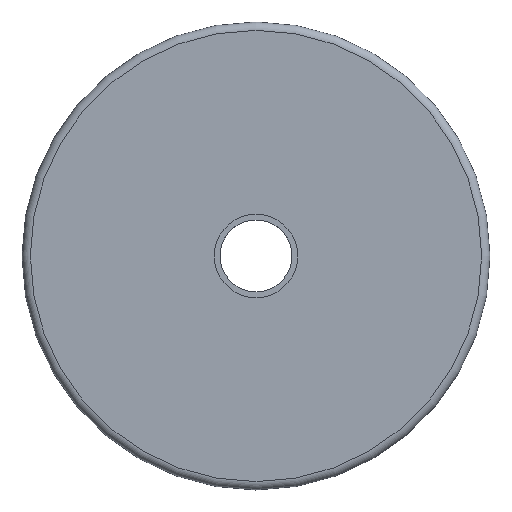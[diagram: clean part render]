
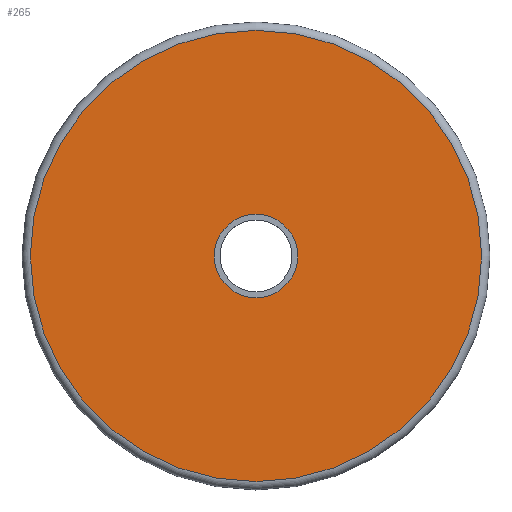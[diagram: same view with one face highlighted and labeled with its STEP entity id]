
A CAD part, top view. The second image highlights one B-rep face of the part: STEP entity #265.
In plain terms, the highlighted planar face has unit normal (0, 0, 1).
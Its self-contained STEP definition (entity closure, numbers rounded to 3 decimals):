
#84 = TOROIDAL_SURFACE('',#85,13.5,0.5);
#85 = AXIS2_PLACEMENT_3D('',#86,#87,#88);
#86 = CARTESIAN_POINT('',(0.,0.,0.7));
#87 = DIRECTION('',(0.,0.,1.));
#88 = DIRECTION('',(1.,0.,-0.));
#181 = VERTEX_POINT('',#182);
#182 = CARTESIAN_POINT('',(13.5,0.,1.2));
#204 = EDGE_CURVE('',#181,#181,#205,.T.);
#205 = SURFACE_CURVE('',#206,(#211,#218),.PCURVE_S1.);
#206 = CIRCLE('',#207,13.5);
#207 = AXIS2_PLACEMENT_3D('',#208,#209,#210);
#208 = CARTESIAN_POINT('',(0.,0.,1.2));
#209 = DIRECTION('',(0.,0.,1.));
#210 = DIRECTION('',(1.,0.,-0.));
#211 = PCURVE('',#84,#212);
#212 = DEFINITIONAL_REPRESENTATION('',(#213),#217);
#213 = LINE('',#214,#215);
#214 = CARTESIAN_POINT('',(0.,1.571));
#215 = VECTOR('',#216,1.);
#216 = DIRECTION('',(1.,0.));
#217 = ( GEOMETRIC_REPRESENTATION_CONTEXT(2) 
PARAMETRIC_REPRESENTATION_CONTEXT() REPRESENTATION_CONTEXT('2D SPACE',''
  ) );
#218 = PCURVE('',#219,#224);
#219 = PLANE('',#220);
#220 = AXIS2_PLACEMENT_3D('',#221,#222,#223);
#221 = CARTESIAN_POINT('',(0.,0.,1.2));
#222 = DIRECTION('',(0.,0.,1.));
#223 = DIRECTION('',(1.,0.,-0.));
#224 = DEFINITIONAL_REPRESENTATION('',(#225),#229);
#225 = CIRCLE('',#226,13.5);
#226 = AXIS2_PLACEMENT_2D('',#227,#228);
#227 = CARTESIAN_POINT('',(0.,0.));
#228 = DIRECTION('',(1.,0.));
#229 = ( GEOMETRIC_REPRESENTATION_CONTEXT(2) 
PARAMETRIC_REPRESENTATION_CONTEXT() REPRESENTATION_CONTEXT('2D SPACE',''
  ) );
#265 = ADVANCED_FACE('',(#266,#269),#219,.T.);
#266 = FACE_BOUND('',#267,.T.);
#267 = EDGE_LOOP('',(#268));
#268 = ORIENTED_EDGE('',*,*,#204,.T.);
#269 = FACE_BOUND('',#270,.T.);
#270 = EDGE_LOOP('',(#271));
#271 = ORIENTED_EDGE('',*,*,#272,.F.);
#272 = EDGE_CURVE('',#273,#273,#275,.T.);
#273 = VERTEX_POINT('',#274);
#274 = CARTESIAN_POINT('',(2.5,0.,1.2));
#275 = SURFACE_CURVE('',#276,(#281,#288),.PCURVE_S1.);
#276 = CIRCLE('',#277,2.5);
#277 = AXIS2_PLACEMENT_3D('',#278,#279,#280);
#278 = CARTESIAN_POINT('',(0.,0.,1.2));
#279 = DIRECTION('',(0.,0.,1.));
#280 = DIRECTION('',(1.,0.,-0.));
#281 = PCURVE('',#219,#282);
#282 = DEFINITIONAL_REPRESENTATION('',(#283),#287);
#283 = CIRCLE('',#284,2.5);
#284 = AXIS2_PLACEMENT_2D('',#285,#286);
#285 = CARTESIAN_POINT('',(0.,0.));
#286 = DIRECTION('',(1.,0.));
#287 = ( GEOMETRIC_REPRESENTATION_CONTEXT(2) 
PARAMETRIC_REPRESENTATION_CONTEXT() REPRESENTATION_CONTEXT('2D SPACE',''
  ) );
#288 = PCURVE('',#289,#294);
#289 = CYLINDRICAL_SURFACE('',#290,2.5);
#290 = AXIS2_PLACEMENT_3D('',#291,#292,#293);
#291 = CARTESIAN_POINT('',(0.,0.,1.19));
#292 = DIRECTION('',(0.,0.,1.));
#293 = DIRECTION('',(1.,0.,-0.));
#294 = DEFINITIONAL_REPRESENTATION('',(#295),#299);
#295 = LINE('',#296,#297);
#296 = CARTESIAN_POINT('',(0.,0.01));
#297 = VECTOR('',#298,1.);
#298 = DIRECTION('',(1.,0.));
#299 = ( GEOMETRIC_REPRESENTATION_CONTEXT(2) 
PARAMETRIC_REPRESENTATION_CONTEXT() REPRESENTATION_CONTEXT('2D SPACE',''
  ) );
